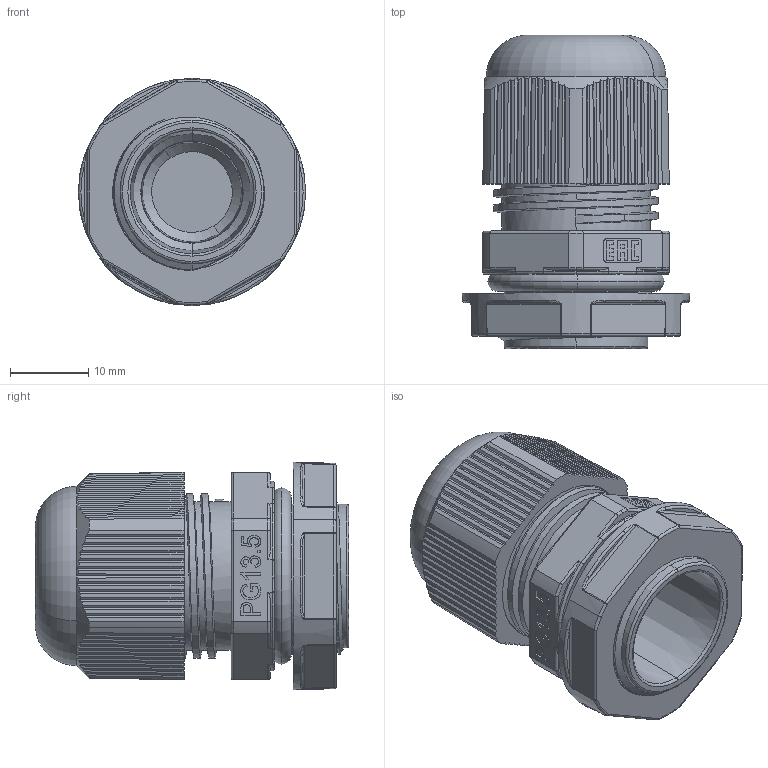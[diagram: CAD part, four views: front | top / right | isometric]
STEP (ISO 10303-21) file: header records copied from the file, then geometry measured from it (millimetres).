
FILE_DESCRIPTION (( 'STEP AP203' ), '1' );
FILE_NAME ('plc-pg-13.5-00.00.000ÑÁ Ñàëüíèê PG13.5 #cable gland PG13.5#.STEP', '2024-02-27T07:24:18', ( '' ), ( '' ), 'SwSTEP 2.0', 'SolidWorks 2021', '' );
FILE_SCHEMA (( 'CONFIG_CONTROL_DESIGN' ));
Length unit declared in the file: millimetre
Products named in the file (6): plc-pg-13.5-00.00.003 Ãàéêà ïðèæèìíàÿ (PG13.5-Ì20) #clamping nut (PG13.5-M20)#; plc-pg-13.5-00.00.004 Óïëîòíèòåëü (PG13.5) #sealant (PG13.5)#; plc-pg-13.5-00.00.002 Ãàéêà öàíãîâàÿ (PG13.5) #collet nut (PG13.5)#; plc-pg-13.5-00.00.001 昢膼瘔 (PG13.5) #base (PG13.5)#; plc-pg-13.5-00.00.000ÑÁ Ñàëüíèê PG13.5 #cable gland PG13.5#; plc-pg-13.5-00.00.005 ﾌ瑙趺 (PG13.5) #sealing ring (PG13.5)#
Assembly tree (5 placements, depth 2):
  plc-pg-13.5-00.00.000ÑÁ Ñàëüíèê PG13.5 #cable gland PG13.5#
    plc-pg-13.5-00.00.001 昢膼瘔 (PG13.5) #base (PG13.5)#
    plc-pg-13.5-00.00.002 Ãàéêà öàíãîâàÿ (PG13.5) #collet nut (PG13.5)#
    plc-pg-13.5-00.00.003 Ãàéêà ïðèæèìíàÿ (PG13.5-Ì20) #clamping nut (PG13.5-M20)#
    plc-pg-13.5-00.00.004 Óïëîòíèòåëü (PG13.5) #sealant (PG13.5)#
    plc-pg-13.5-00.00.005 ﾌ瑙趺 (PG13.5) #sealing ring (PG13.5)#
Bounding box: 29 x 39.98 x 29 mm (x, y, z)
Volume: 10272.8 mm3; surface area: 13068.3 mm2
Topology: 5 solids, 8 shells, 871 faces, 2359 edges, 1506 vertices
Faces by surface type: plane 450, cylinder 119, cone 110, bspline 95, torus 85, sphere 12
Entity records: 35921 total; most frequent: CARTESIAN_POINT 15216, ORIENTED_EDGE 4694, DIRECTION 3531, EDGE_CURVE 2347, VERTEX_POINT 1506, AXIS2_PLACEMENT_3D 1244, VECTOR 1043, LINE 1043
